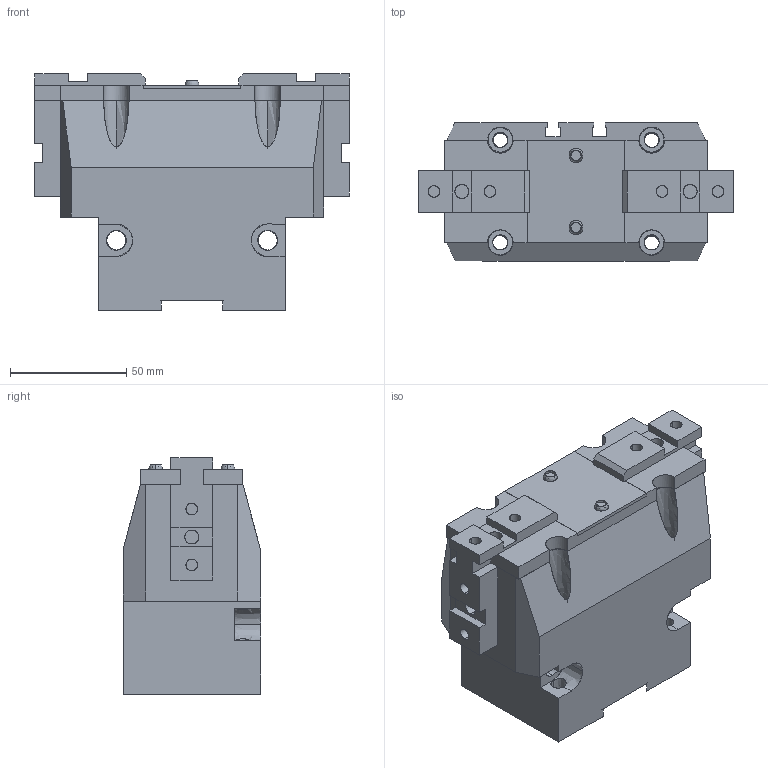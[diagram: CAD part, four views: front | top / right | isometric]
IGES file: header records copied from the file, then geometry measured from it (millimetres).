
Global section: file name: C:\Documents and Settings\Administrateur\Mes documents\OPE-115-SX-OPEN.igs; native system: AutoCAD-16.0s (LMS Tech) (Microsoft Windows NT Version 5.1 (x86)); preprocessor: Autodesk IGES Translator Mechanical Desktop.R7.0.43.0 (Mar 18 2003) from Autodesk, Inc.; date: 20050629.122433; units: millimetre
Bounding box: 135 x 59.2 x 101.5 mm (x, y, z)
Surface area: 94294.7 mm2 (no closed solid volume)
Topology: 0 solids, 0 shells, 269 faces, 2629 edges, 2710 vertices
Faces by surface type: bspline 269
